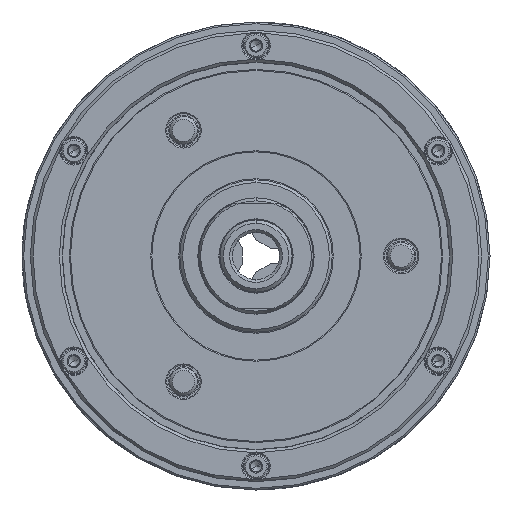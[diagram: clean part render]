
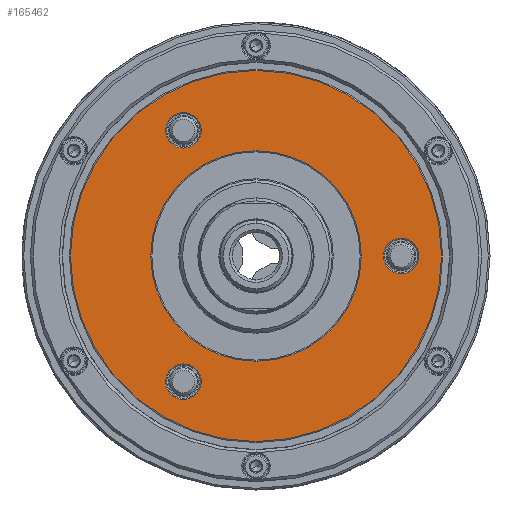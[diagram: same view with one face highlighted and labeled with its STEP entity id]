
A CAD part, left-side view. The second image highlights one B-rep face of the part: STEP entity #165462.
In plain terms, the highlighted planar face has unit normal (-1, 0, 0).
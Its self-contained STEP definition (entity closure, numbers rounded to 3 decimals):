
#744 = AXIS2_PLACEMENT_3D ( 'NONE', #117418, #33929, #131436 ) ;
#4130 = DIRECTION ( 'NONE',  ( 0., 0., -1. ) ) ;
#7451 = ORIENTED_EDGE ( 'NONE', *, *, #93756, .T. ) ;
#11622 = CARTESIAN_POINT ( 'NONE',  ( -89.5, 26.195, 38.971 ) ) ;
#13178 = ORIENTED_EDGE ( 'NONE', *, *, #74075, .T. ) ;
#13394 = CARTESIAN_POINT ( 'NONE',  ( -89.5, -52.39, 0. ) ) ;
#14969 = AXIS2_PLACEMENT_3D ( 'NONE', #51489, #149019, #65555 ) ;
#15335 = ORIENTED_EDGE ( 'NONE', *, *, #96608, .T. ) ;
#18700 = VERTEX_POINT ( 'NONE', #80912 ) ;
#21209 = ORIENTED_EDGE ( 'NONE', *, *, #163520, .T. ) ;
#22323 = EDGE_CURVE ( 'NONE', #18700, #27252, #32610, .T. ) ;
#24621 = DIRECTION ( 'NONE',  ( 0., 0., 1. ) ) ;
#24770 = CIRCLE ( 'NONE', #96185, 6.4 ) ;
#27252 = VERTEX_POINT ( 'NONE', #50549 ) ;
#27374 = DIRECTION ( 'NONE',  ( 0., 0., -1. ) ) ;
#27655 = DIRECTION ( 'NONE',  ( 1., 0., 0. ) ) ;
#27983 = CARTESIAN_POINT ( 'NONE',  ( -89.5, 26.195, 45.371 ) ) ;
#29290 = CARTESIAN_POINT ( 'NONE',  ( -89.5, -52.39, 0. ) ) ;
#32610 = CIRCLE ( 'NONE', #130288, 6.4 ) ;
#33929 = DIRECTION ( 'NONE',  ( 1., 0., 0. ) ) ;
#34151 = ORIENTED_EDGE ( 'NONE', *, *, #109801, .F. ) ;
#34554 = CIRCLE ( 'NONE', #55205, 38. ) ;
#34943 = CIRCLE ( 'NONE', #744, 38. ) ;
#34990 = DIRECTION ( 'NONE',  ( 1., 0., 0. ) ) ;
#36531 = FACE_BOUND ( 'NONE', #63288, .T. ) ;
#41190 = ORIENTED_EDGE ( 'NONE', *, *, #87839, .T. ) ;
#42003 = DIRECTION ( 'NONE',  ( 0., 0., -1. ) ) ;
#42897 = CARTESIAN_POINT ( 'NONE',  ( -89.5, -52.39, -6.4 ) ) ;
#43270 = DIRECTION ( 'NONE',  ( 0., 0., -1. ) ) ;
#45514 = EDGE_LOOP ( 'NONE', ( #73662, #87538 ) ) ;
#48746 = VERTEX_POINT ( 'NONE', #129118 ) ;
#50549 = CARTESIAN_POINT ( 'NONE',  ( -89.5, 26.195, -38.971 ) ) ;
#51489 = CARTESIAN_POINT ( 'NONE',  ( -89.5, 26.195, 45.371 ) ) ;
#53328 = DIRECTION ( 'NONE',  ( 1., 0., 0. ) ) ;
#53729 = DIRECTION ( 'NONE',  ( 1., 0., 0. ) ) ;
#55205 = AXIS2_PLACEMENT_3D ( 'NONE', #136802, #53328, #150870 ) ;
#60888 = CIRCLE ( 'NONE', #79673, 67. ) ;
#63288 = EDGE_LOOP ( 'NONE', ( #13178, #7451 ) ) ;
#64922 = FACE_OUTER_BOUND ( 'NONE', #129819, .T. ) ;
#65555 = DIRECTION ( 'NONE',  ( 0., 0., -1. ) ) ;
#66135 = DIRECTION ( 'NONE',  ( -1., 0., 0. ) ) ;
#68700 = CIRCLE ( 'NONE', #14969, 6.4 ) ;
#69287 = FACE_BOUND ( 'NONE', #45514, .T. ) ;
#71006 = CARTESIAN_POINT ( 'NONE',  ( -89.5, 26.195, 51.771 ) ) ;
#73662 = ORIENTED_EDGE ( 'NONE', *, *, #157297, .T. ) ;
#74075 = EDGE_CURVE ( 'NONE', #143940, #94406, #169380, .T. ) ;
#76615 = CIRCLE ( 'NONE', #93550, 6.4 ) ;
#79673 = AXIS2_PLACEMENT_3D ( 'NONE', #171213, #87751, #4130 ) ;
#80912 = CARTESIAN_POINT ( 'NONE',  ( -89.5, 26.195, -51.771 ) ) ;
#87538 = ORIENTED_EDGE ( 'NONE', *, *, #104910, .T. ) ;
#87751 = DIRECTION ( 'NONE',  ( 1., 0., 0. ) ) ;
#87839 = EDGE_CURVE ( 'NONE', #151510, #161968, #24770, .T. ) ;
#93550 = AXIS2_PLACEMENT_3D ( 'NONE', #13394, #110911, #27374 ) ;
#93756 = EDGE_CURVE ( 'NONE', #94406, #143940, #68700, .T. ) ;
#94406 = VERTEX_POINT ( 'NONE', #11622 ) ;
#96185 = AXIS2_PLACEMENT_3D ( 'NONE', #29290, #126802, #43270 ) ;
#96608 = EDGE_CURVE ( 'NONE', #161968, #151510, #76615, .T. ) ;
#102017 = FACE_BOUND ( 'NONE', #109932, .T. ) ;
#102157 = AXIS2_PLACEMENT_3D ( 'NONE', #27983, #125499, #42003 ) ;
#103865 = AXIS2_PLACEMENT_3D ( 'NONE', #137191, #53729, #151257 ) ;
#104910 = EDGE_CURVE ( 'NONE', #48746, #166969, #34943, .T. ) ;
#105966 = EDGE_LOOP ( 'NONE', ( #21209, #162495 ) ) ;
#108182 = CARTESIAN_POINT ( 'NONE',  ( -89.5, 67., 0. ) ) ;
#108322 = EDGE_CURVE ( 'NONE', #119260, #166019, #111404, .T. ) ;
#108328 = AXIS2_PLACEMENT_3D ( 'NONE', #111203, #27655, #125186 ) ;
#108791 = CARTESIAN_POINT ( 'NONE',  ( -89.5, 0., 38. ) ) ;
#109801 = EDGE_CURVE ( 'NONE', #166019, #119260, #60888, .T. ) ;
#109932 = EDGE_LOOP ( 'NONE', ( #15335, #41190 ) ) ;
#110911 = DIRECTION ( 'NONE',  ( 1., 0., 0. ) ) ;
#111203 = CARTESIAN_POINT ( 'NONE',  ( -89.5, 26.195, -45.371 ) ) ;
#111404 = CIRCLE ( 'NONE', #103865, 67. ) ;
#117418 = CARTESIAN_POINT ( 'NONE',  ( -89.5, 0., 0. ) ) ;
#118509 = CARTESIAN_POINT ( 'NONE',  ( -89.5, 26.195, -45.371 ) ) ;
#119260 = VERTEX_POINT ( 'NONE', #144348 ) ;
#121567 = PLANE ( 'NONE',  #171634 ) ;
#125186 = DIRECTION ( 'NONE',  ( 0., 0., -1. ) ) ;
#125499 = DIRECTION ( 'NONE',  ( 1., 0., 0. ) ) ;
#126802 = DIRECTION ( 'NONE',  ( 1., 0., 0. ) ) ;
#129118 = CARTESIAN_POINT ( 'NONE',  ( -89.5, 0., -38. ) ) ;
#129819 = EDGE_LOOP ( 'NONE', ( #34151, #169536 ) ) ;
#130288 = AXIS2_PLACEMENT_3D ( 'NONE', #118509, #34990, #132494 ) ;
#131436 = DIRECTION ( 'NONE',  ( 0., 0., -1. ) ) ;
#132494 = DIRECTION ( 'NONE',  ( 0., 0., -1. ) ) ;
#135220 = CARTESIAN_POINT ( 'NONE',  ( -89.5, -52.39, 6.4 ) ) ;
#135543 = CIRCLE ( 'NONE', #108328, 6.4 ) ;
#136802 = CARTESIAN_POINT ( 'NONE',  ( -89.5, 0., 0. ) ) ;
#137191 = CARTESIAN_POINT ( 'NONE',  ( -89.5, 0., 0. ) ) ;
#143940 = VERTEX_POINT ( 'NONE', #71006 ) ;
#144348 = CARTESIAN_POINT ( 'NONE',  ( -89.5, 0., 67. ) ) ;
#149019 = DIRECTION ( 'NONE',  ( 1., 0., 0. ) ) ;
#150870 = DIRECTION ( 'NONE',  ( 0., 0., -1. ) ) ;
#151257 = DIRECTION ( 'NONE',  ( 0., 0., -1. ) ) ;
#151510 = VERTEX_POINT ( 'NONE', #42897 ) ;
#157297 = EDGE_CURVE ( 'NONE', #166969, #48746, #34554, .T. ) ;
#161968 = VERTEX_POINT ( 'NONE', #135220 ) ;
#162495 = ORIENTED_EDGE ( 'NONE', *, *, #22323, .T. ) ;
#163520 = EDGE_CURVE ( 'NONE', #27252, #18700, #135543, .T. ) ;
#165462 = ADVANCED_FACE ( 'NONE', ( #176119, #36531, #102017, #69287, #64922 ), #121567, .T. ) ;
#166019 = VERTEX_POINT ( 'NONE', #178619 ) ;
#166969 = VERTEX_POINT ( 'NONE', #108791 ) ;
#169380 = CIRCLE ( 'NONE', #102157, 6.4 ) ;
#169536 = ORIENTED_EDGE ( 'NONE', *, *, #108322, .F. ) ;
#171213 = CARTESIAN_POINT ( 'NONE',  ( -89.5, 0., 0. ) ) ;
#171634 = AXIS2_PLACEMENT_3D ( 'NONE', #108182, #66135, #24621 ) ;
#176119 = FACE_BOUND ( 'NONE', #105966, .T. ) ;
#178619 = CARTESIAN_POINT ( 'NONE',  ( -89.5, 0., -67. ) ) ;
